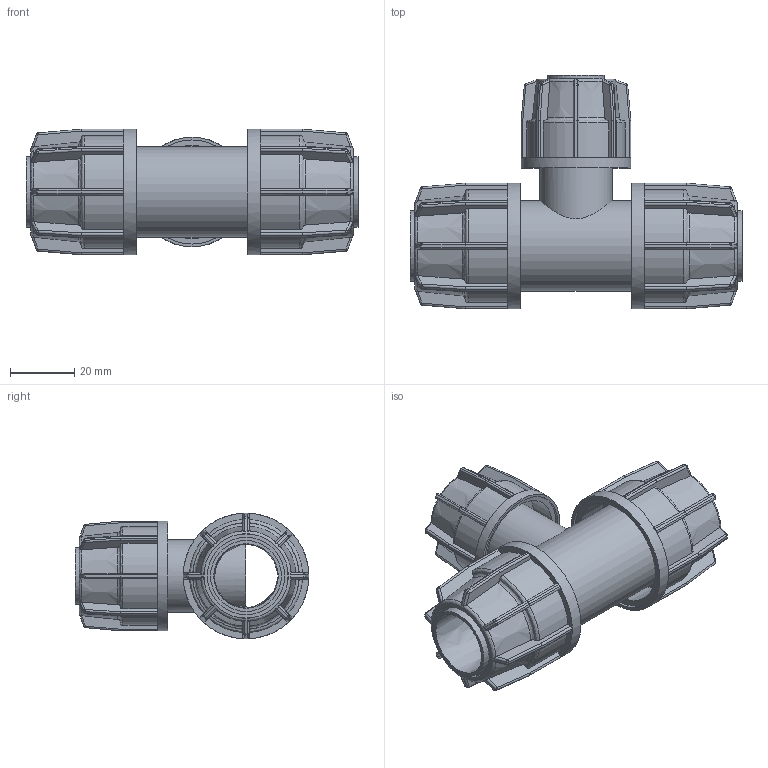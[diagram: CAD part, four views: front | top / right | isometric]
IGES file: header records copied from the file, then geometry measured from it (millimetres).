
Global section: file name: 043407020016.ipt; native system: Autodesk Inventor 2015; preprocessor: unknown; author: KIM; date: 20180409.130656; units: millimetre
Bounding box: 103 x 72.5 x 39 mm (x, y, z)
Volume: 57713.2 mm3; surface area: 35226.2 mm2
Topology: 1 solids, 1 shells, 766 faces, 1854 edges, 1079 vertices
Faces by surface type: plane 379, cylinder 219, sphere 80, revolution 64, cone 24
Full cylindrical faces by diameter (mm): 17.6 x1, 22 x2, 22.4 x1, 28 x1, 34 x1, 39 x2
